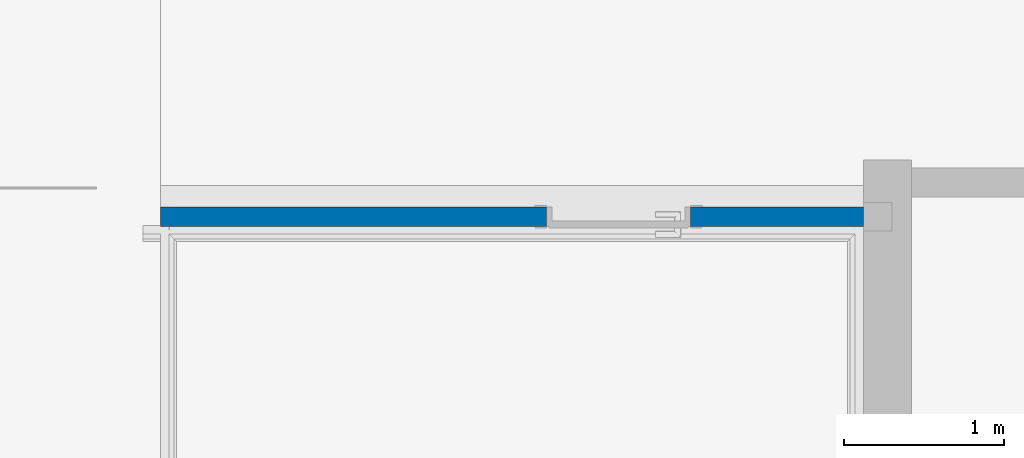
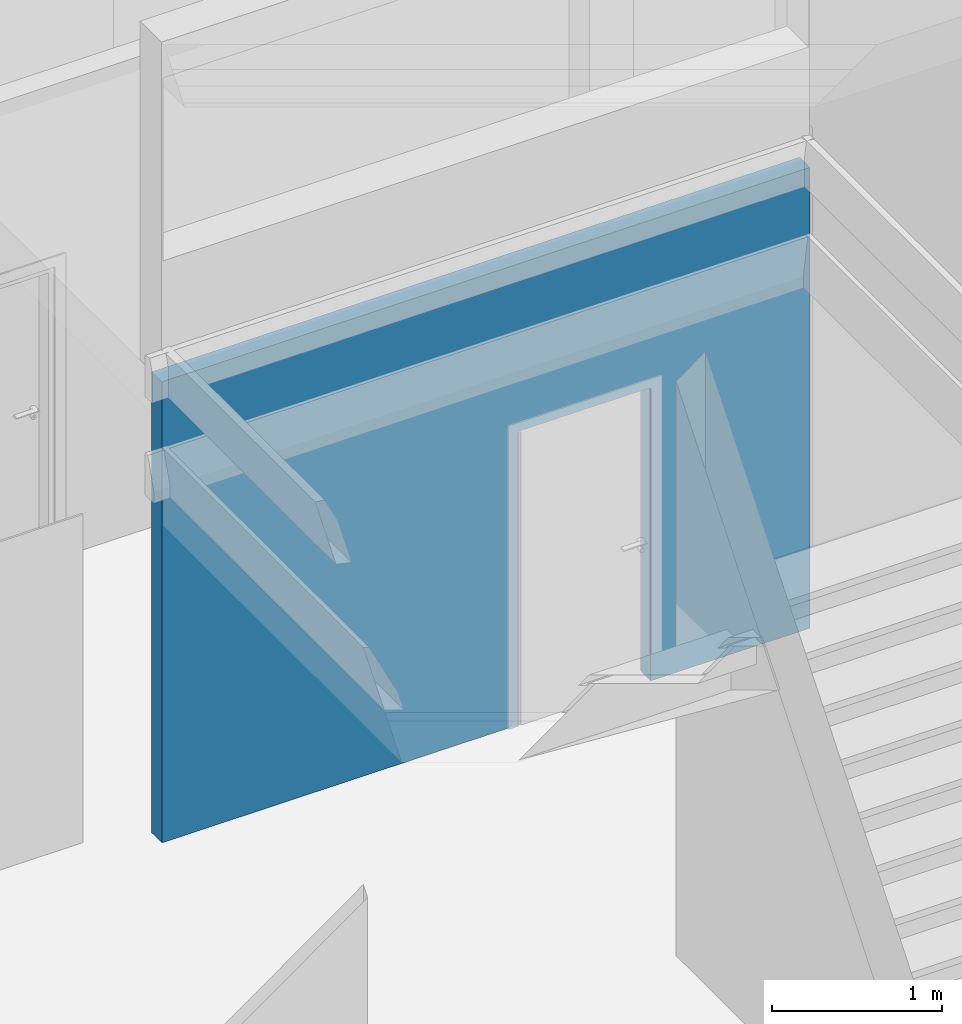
# One storey, part 74 of 117: 1 wall, 1 opening.
"""IFC4 building model written with IfcOpenShell, lengths in metres."""

from ifc_helpers import new_model, entity, si_unit, converted_unit, derived_unit, direction, frame, origin, place, context, subcontext, project, spatial, indexed_curve, outline, extrude, polygons, material, type_object, element, save


model = new_model("IFC4")

# Units and contexts
model_context = context("Model", 3, precision=1e-05, world=origin(), true_north=direction((6.123031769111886e-17, 1.0)))
body_context = subcontext(model_context, "Body", "Model", "MODEL_VIEW")
ifc_project = project(units=[si_unit("LENGTHUNIT", "METRE"), si_unit("AREAUNIT", "SQUARE_METRE"), si_unit("VOLUMEUNIT", "CUBIC_METRE"), converted_unit("PLANEANGLEUNIT", "DEGREE", entity("IfcRatioMeasure", 0.017453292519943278), si_unit("PLANEANGLEUNIT", "RADIAN"), dimensions=[0, 0, 0, 0, 0, 0, 0]), si_unit("MASSUNIT", "GRAM", prefix="KILO"), derived_unit("MASSDENSITYUNIT", [(si_unit("MASSUNIT", "GRAM", prefix="KILO"), 1), (si_unit("LENGTHUNIT", "METRE"), -3)]), derived_unit("MOMENTOFINERTIAUNIT", [(si_unit("LENGTHUNIT", "METRE"), 4)]), si_unit("TIMEUNIT", "SECOND"), si_unit("FREQUENCYUNIT", "HERTZ"), si_unit("THERMODYNAMICTEMPERATUREUNIT", "DEGREE_CELSIUS"), derived_unit("THERMALTRANSMITTANCEUNIT", [(si_unit("MASSUNIT", "GRAM", prefix="KILO"), 1), (si_unit("THERMODYNAMICTEMPERATUREUNIT", "KELVIN"), -1), (si_unit("TIMEUNIT", "SECOND"), -3)]), derived_unit("VOLUMETRICFLOWRATEUNIT", [(si_unit("LENGTHUNIT", "METRE"), 3), (si_unit("TIMEUNIT", "SECOND"), -1)]), derived_unit("MASSFLOWRATEUNIT", [(si_unit("MASSUNIT", "GRAM", prefix="KILO"), 1), (si_unit("TIMEUNIT", "SECOND"), -1)]), derived_unit("ROTATIONALFREQUENCYUNIT", [(si_unit("TIMEUNIT", "SECOND"), -1)]), si_unit("ELECTRICCURRENTUNIT", "AMPERE"), si_unit("ELECTRICVOLTAGEUNIT", "VOLT"), si_unit("POWERUNIT", "WATT"), si_unit("FORCEUNIT", "NEWTON", prefix="KILO"), si_unit("ILLUMINANCEUNIT", "LUX"), si_unit("LUMINOUSFLUXUNIT", "LUMEN"), si_unit("LUMINOUSINTENSITYUNIT", "CANDELA"), derived_unit("USERDEFINED", [(si_unit("MASSUNIT", "GRAM", prefix="KILO"), -1), (si_unit("LENGTHUNIT", "METRE"), -2), (si_unit("TIMEUNIT", "SECOND"), 3), (si_unit("LUMINOUSFLUXUNIT", "LUMEN"), 1)]), derived_unit("SOUNDPOWERUNIT", [(si_unit("MASSUNIT", "GRAM", prefix="KILO"), 1), (si_unit("LENGTHUNIT", "METRE"), 2), (si_unit("TIMEUNIT", "SECOND"), -3)]), derived_unit("SOUNDPRESSUREUNIT", [(si_unit("MASSUNIT", "GRAM", prefix="KILO"), 1), (si_unit("LENGTHUNIT", "METRE"), -1), (si_unit("TIMEUNIT", "SECOND"), -2)]), derived_unit("LINEARVELOCITYUNIT", [(si_unit("LENGTHUNIT", "METRE"), 1), (si_unit("TIMEUNIT", "SECOND"), -1)]), si_unit("PRESSUREUNIT", "PASCAL"), derived_unit("USERDEFINED", [(si_unit("LENGTHUNIT", "METRE"), -2), (si_unit("MASSUNIT", "GRAM", prefix="KILO"), 1), (si_unit("TIMEUNIT", "SECOND"), -2)]), derived_unit("LINEARFORCEUNIT", [(si_unit("MASSUNIT", "GRAM", prefix="KILO"), 1), (si_unit("LENGTHUNIT", "METRE"), 1), (si_unit("TIMEUNIT", "SECOND"), -2), (si_unit("LENGTHUNIT", "METRE"), -1)]), derived_unit("PLANARFORCEUNIT", [(si_unit("MASSUNIT", "GRAM", prefix="KILO"), 1), (si_unit("LENGTHUNIT", "METRE"), 1), (si_unit("TIMEUNIT", "SECOND"), -2), (si_unit("LENGTHUNIT", "METRE"), -2)])], contexts=[model_context])

# Site, building, storey
site_placement = place(None, origin())
site = spatial("IfcSite", under=ifc_project, at=site_placement, Name="Superficie", CompositionType="ELEMENT")
building_placement = place(site_placement, origin())
building = spatial("IfcBuilding", under=site, at=building_placement, CompositionType="ELEMENT")
storey_placement = place(building_placement, origin())
storey = spatial("IfcBuildingStorey", under=building, at=storey_placement, Name="Nivel 0", CompositionType="ELEMENT", Elevation=0.0)

# Wall, opening
ifc_material = material(Name="Muro por defecto", Category="Varios")
wall_type = type_object("IfcWallType", Name="Muro básico:Por defecto - 12 cm 2", PredefinedType="STANDARD")
wall_placement = place(storey_placement, frame((20.98679901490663, 3.30082928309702, 0.0)))
wall = element("IfcWall", 1, at=wall_placement, inside=storey, type_object=wall_type, material=ifc_material, Name="Muro básico:Por defecto - 12 cm 2", ObjectType="Muro básico:Por defecto - 12 cm 2", PredefinedType="NOTDEFINED", context=body_context, shape_type="Tessellation", body=[
    polygons([(4.390000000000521, -0.059999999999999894, 3.3), (-1.7170392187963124e-15, -0.059999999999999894, 3.3), (-1.7170392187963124e-15, -0.059999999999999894, 0.0), (2.4100000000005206, -0.059999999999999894, 0.0), (2.4100000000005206, -0.059999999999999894, 2.099999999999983), (3.310000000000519, -0.05999999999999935, 2.099999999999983), (3.310000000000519, -0.05999999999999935, 0.0), (4.390000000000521, -0.059999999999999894, 0.0), (-2.101384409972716e-15, 0.05999999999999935, 3.3), (4.39000000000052, 0.059999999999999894, 3.3), (4.39000000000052, 0.059999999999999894, 0.0), (3.3100000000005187, 0.060000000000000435, 0.0), (3.3100000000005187, 0.060000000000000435, 2.099999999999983), (2.4100000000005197, 0.059999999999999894, 2.099999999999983), (2.4100000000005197, 0.059999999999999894, 0.0), (-2.101384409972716e-15, 0.05999999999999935, 0.0)], [[[1, 2, 3, 4, 5, 6, 7, 8]], [[9, 10, 11, 12, 13, 14, 15, 16]], [[3, 16, 15, 4]], [[2, 1, 10, 9]], [[3, 2, 9, 16]], [[1, 8, 11, 10]], [[14, 5, 4, 15]], [[5, 14, 13, 6]], [[6, 13, 12, 7]], [[11, 8, 7, 12]]], closed=True),
])
opening_placement = place(wall_placement, frame((3.3100000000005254, 0.05999999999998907, 0.0)))
element("IfcOpeningElement", 2, at=opening_placement, cuts=wall, Name="Puerta de 1 hoja:90 x 210 cm:1", PredefinedType="OPENING", context=body_context, shape_type="SweptSolid", body=[
    extrude(outline(indexed_curve([(0.0, 0.899999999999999), (0.0, 0.0), (2.099999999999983, 0.0), (2.099999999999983, 0.899999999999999), (0.0, 0.899999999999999)], self_intersect=False)), frame((0.0, 0.0, 0.0), z_axis=(0.0, -1.0, 0.0), x_axis=(0.0, 0.0, 1.0)), (0.0, 0.0, 1.0), 0.12),
])

save(model, "model.ifc")
